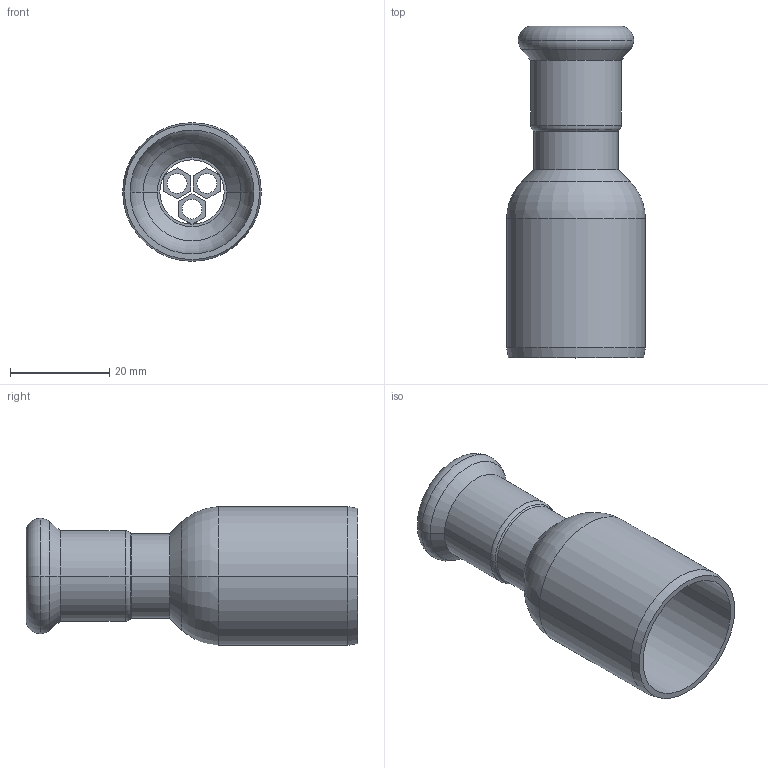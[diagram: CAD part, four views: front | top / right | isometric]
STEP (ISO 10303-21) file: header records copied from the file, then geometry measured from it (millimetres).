
FILE_DESCRIPTION(('OneSpaceDesigner STEP Export'),'2;1');
FILE_NAME('R2707 15x28.stp','2010-06-09T11:52:42',(''),(''),'OneSpace Designer STEP processor for AP214 (Solid Model)','OneSpace Modeling 15.00A 14-Mar-2007 (C) CoCreate Software GmbH','');
FILE_SCHEMA(('AUTOMOTIVE_DESIGN { 1 0 10303 214 1 1 1 1 }'));
Length unit declared in the file: millimetre
Products named in the file (2): R2707_15x28
Assembly tree (1 placements, depth 2):
  R2707_15x28
    R2707_15x28
Bounding box: 28 x 67 x 28 mm (x, y, z)
Volume: 7645.3 mm3; surface area: 10096.8 mm2
Topology: 1 solids, 1 shells, 77 faces, 181 edges, 112 vertices
Faces by surface type: plane 32, cylinder 25, cone 10, torus 10
Entity records: 1978 total; most frequent: ORIENTED_EDGE 362, CARTESIAN_POINT 314, DIRECTION 303, EDGE_CURVE 181, VERTEX_POINT 112, AXIS2_PLACEMENT_3D 101, VECTOR 101, LINE 101
